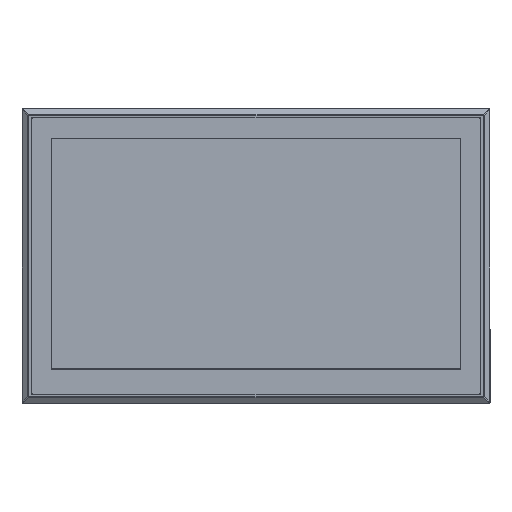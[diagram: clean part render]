
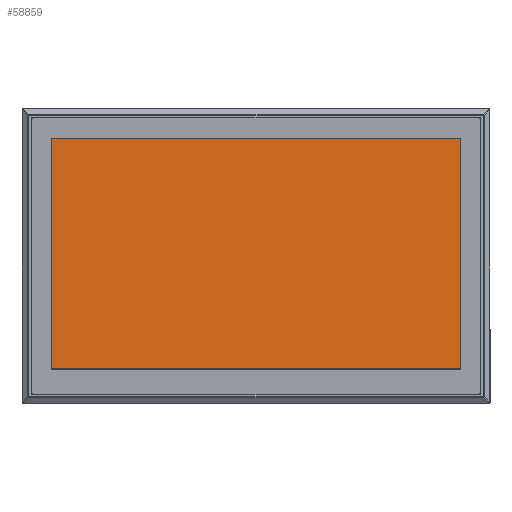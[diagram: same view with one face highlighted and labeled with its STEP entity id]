
A CAD part, top view. The second image highlights one B-rep face of the part: STEP entity #58859.
In plain terms, the highlighted planar face has unit normal (0, 0, 1).
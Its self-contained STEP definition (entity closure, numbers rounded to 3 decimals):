
#4405 = PLANE ( 'NONE',  #200416 ) ;
#25148 = VECTOR ( 'NONE', #149241, 1000. ) ;
#26782 = DIRECTION ( 'NONE',  ( 0., 1., 0. ) ) ;
#29321 = DIRECTION ( 'NONE',  ( 0., -1., 0. ) ) ;
#29613 = VECTOR ( 'NONE', #71068, 1000. ) ;
#34711 = VERTEX_POINT ( 'NONE', #56025 ) ;
#44549 = CARTESIAN_POINT ( 'NONE',  ( -172.08, 96.295, -0.2 ) ) ;
#48795 = CARTESIAN_POINT ( 'NONE',  ( -172.08, -97.295, -0.2 ) ) ;
#56025 = CARTESIAN_POINT ( 'NONE',  ( -172.08, 96.295, -0.2 ) ) ;
#58859 = ADVANCED_FACE ( 'NONE', ( #81716 ), #4405, .T. ) ;
#61955 = VECTOR ( 'NONE', #26782, 1000. ) ;
#63651 = CARTESIAN_POINT ( 'NONE',  ( 172.08, -97.295, -0.2 ) ) ;
#69756 = VERTEX_POINT ( 'NONE', #85600 ) ;
#71068 = DIRECTION ( 'NONE',  ( 1., 0., 0. ) ) ;
#79773 = ORIENTED_EDGE ( 'NONE', *, *, #178774, .T. ) ;
#81716 = FACE_OUTER_BOUND ( 'NONE', #126627, .T. ) ;
#85600 = CARTESIAN_POINT ( 'NONE',  ( -172.08, -97.295, -0.2 ) ) ;
#92373 = LINE ( 'NONE', #44549, #185705 ) ;
#104096 = LINE ( 'NONE', #133567, #61955 ) ;
#109170 = EDGE_CURVE ( 'NONE', #151338, #149080, #104096, .T. ) ;
#113266 = DIRECTION ( 'NONE',  ( 1., 0., 0. ) ) ;
#115231 = ORIENTED_EDGE ( 'NONE', *, *, #115880, .T. ) ;
#115880 = EDGE_CURVE ( 'NONE', #149080, #34711, #194021, .T. ) ;
#116744 = CARTESIAN_POINT ( 'NONE',  ( -172.08, 96.295, -0.2 ) ) ;
#122129 = EDGE_CURVE ( 'NONE', #69756, #151338, #175917, .T. ) ;
#126627 = EDGE_LOOP ( 'NONE', ( #115231, #79773, #173636, #156069 ) ) ;
#128507 = CARTESIAN_POINT ( 'NONE',  ( 188.08, -117.795, -0.2 ) ) ;
#133567 = CARTESIAN_POINT ( 'NONE',  ( 172.08, 96.295, -0.2 ) ) ;
#149080 = VERTEX_POINT ( 'NONE', #185971 ) ;
#149241 = DIRECTION ( 'NONE',  ( -1., 0., 0. ) ) ;
#151338 = VERTEX_POINT ( 'NONE', #63651 ) ;
#156069 = ORIENTED_EDGE ( 'NONE', *, *, #109170, .T. ) ;
#173636 = ORIENTED_EDGE ( 'NONE', *, *, #122129, .T. ) ;
#175917 = LINE ( 'NONE', #48795, #29613 ) ;
#178774 = EDGE_CURVE ( 'NONE', #34711, #69756, #92373, .T. ) ;
#185705 = VECTOR ( 'NONE', #29321, 1000. ) ;
#185971 = CARTESIAN_POINT ( 'NONE',  ( 172.08, 96.295, -0.2 ) ) ;
#190543 = DIRECTION ( 'NONE',  ( 0., 0., 1. ) ) ;
#194021 = LINE ( 'NONE', #116744, #25148 ) ;
#200416 = AXIS2_PLACEMENT_3D ( 'NONE', #128507, #190543, #113266 ) ;
